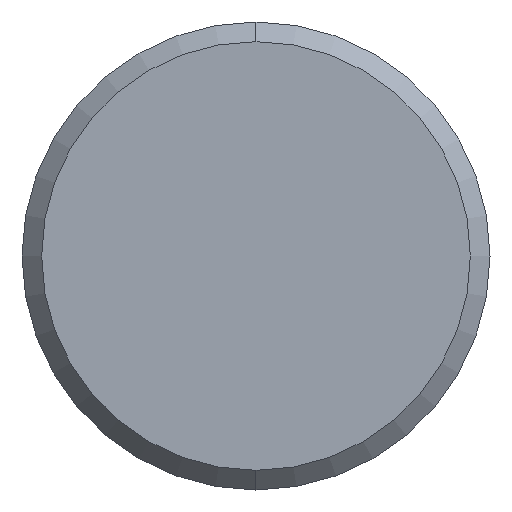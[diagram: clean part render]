
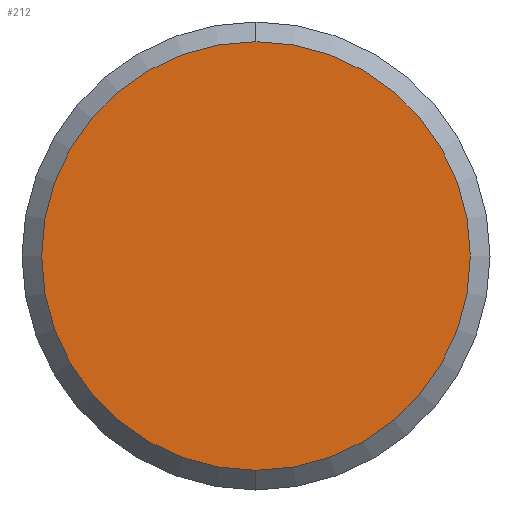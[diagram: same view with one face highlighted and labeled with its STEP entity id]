
A CAD part, left-side view. The second image highlights one B-rep face of the part: STEP entity #212.
In plain terms, the highlighted planar face has unit normal (-1, 0, 0).
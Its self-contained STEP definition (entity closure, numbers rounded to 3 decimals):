
#71 = VERTEX_POINT ( 'NONE', #401 ) ;
#79 = CARTESIAN_POINT ( 'NONE',  ( -248.4, 9.525, 0. ) ) ;
#98 = ORIENTED_EDGE ( 'NONE', *, *, #415, .T. ) ;
#103 = DIRECTION ( 'NONE',  ( 0., 0., -1. ) ) ;
#129 = AXIS2_PLACEMENT_3D ( 'NONE', #390, #141, #103 ) ;
#141 = DIRECTION ( 'NONE',  ( -1., 0., 0. ) ) ;
#149 = AXIS2_PLACEMENT_3D ( 'NONE', #79, #168, #426 ) ;
#167 = DIRECTION ( 'NONE',  ( 0., 0., -1. ) ) ;
#168 = DIRECTION ( 'NONE',  ( 1., 0., 0. ) ) ;
#171 = VERTEX_POINT ( 'NONE', #326 ) ;
#198 = CARTESIAN_POINT ( 'NONE',  ( -248.4, 0., 0. ) ) ;
#207 = PLANE ( 'NONE',  #149 ) ;
#212 = ADVANCED_FACE ( 'NONE', ( #290 ), #207, .F. ) ;
#251 = EDGE_LOOP ( 'NONE', ( #98, #457 ) ) ;
#290 = FACE_OUTER_BOUND ( 'NONE', #251, .T. ) ;
#312 = EDGE_CURVE ( 'NONE', #171, #71, #428, .T. ) ;
#326 = CARTESIAN_POINT ( 'NONE',  ( -248.4, 0., 8.725 ) ) ;
#370 = AXIS2_PLACEMENT_3D ( 'NONE', #198, #385, #167 ) ;
#385 = DIRECTION ( 'NONE',  ( -1., 0., 0. ) ) ;
#390 = CARTESIAN_POINT ( 'NONE',  ( -248.4, 0., 0. ) ) ;
#401 = CARTESIAN_POINT ( 'NONE',  ( -248.4, 0., -8.725 ) ) ;
#415 = EDGE_CURVE ( 'NONE', #71, #171, #446, .T. ) ;
#426 = DIRECTION ( 'NONE',  ( 0., 0., -1. ) ) ;
#428 = CIRCLE ( 'NONE', #370, 8.725 ) ;
#446 = CIRCLE ( 'NONE', #129, 8.725 ) ;
#457 = ORIENTED_EDGE ( 'NONE', *, *, #312, .T. ) ;
